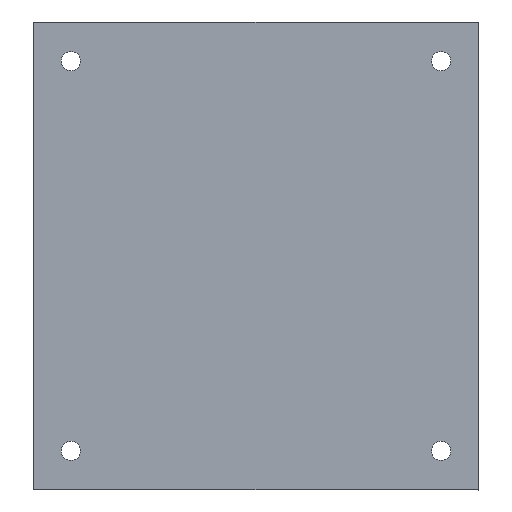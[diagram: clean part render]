
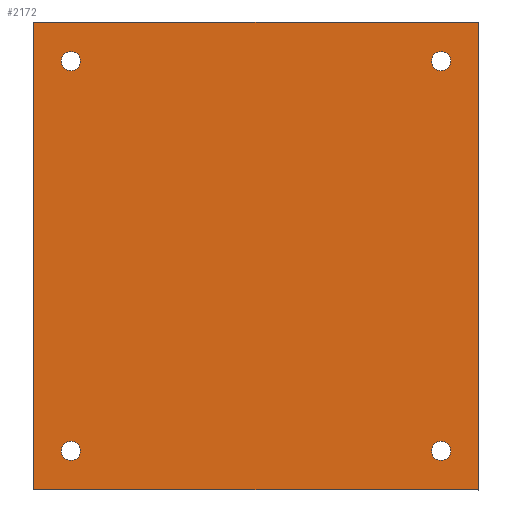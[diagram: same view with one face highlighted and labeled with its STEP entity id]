
A CAD part, front view. The second image highlights one B-rep face of the part: STEP entity #2172.
In plain terms, the highlighted planar face has unit normal (0, -1, 0).
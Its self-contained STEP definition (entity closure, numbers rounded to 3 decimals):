
#25 = ORIENTED_EDGE ( 'NONE', *, *, #2363, .T. ) ;
#47 = CARTESIAN_POINT ( 'NONE',  ( -24.13, -1.6, -24.15 ) ) ;
#97 = EDGE_CURVE ( 'NONE', #2329, #1384, #1520, .T. ) ;
#144 = VERTEX_POINT ( 'NONE', #1286 ) ;
#147 = ORIENTED_EDGE ( 'NONE', *, *, #931, .T. ) ;
#154 = ORIENTED_EDGE ( 'NONE', *, *, #855, .T. ) ;
#159 = CARTESIAN_POINT ( 'NONE',  ( -24.13, -1.6, 24.15 ) ) ;
#185 = DIRECTION ( 'NONE',  ( 0., 0., 1. ) ) ;
#187 = VERTEX_POINT ( 'NONE', #2006 ) ;
#192 = ORIENTED_EDGE ( 'NONE', *, *, #1035, .T. ) ;
#211 = CIRCLE ( 'NONE', #2472, 1.25 ) ;
#353 = PLANE ( 'NONE',  #1528 ) ;
#366 = EDGE_CURVE ( 'NONE', #144, #2309, #2489, .T. ) ;
#368 = DIRECTION ( 'NONE',  ( 0., 0., -1. ) ) ;
#369 = DIRECTION ( 'NONE',  ( 0., 1., 0. ) ) ;
#395 = LINE ( 'NONE', #2404, #2088 ) ;
#432 = ORIENTED_EDGE ( 'NONE', *, *, #967, .T. ) ;
#512 = ORIENTED_EDGE ( 'NONE', *, *, #366, .T. ) ;
#515 = CARTESIAN_POINT ( 'NONE',  ( 24.13, -1.6, 25.4 ) ) ;
#528 = CARTESIAN_POINT ( 'NONE',  ( 0., -1.6, 30.5 ) ) ;
#540 = AXIS2_PLACEMENT_3D ( 'NONE', #845, #2855, #653 ) ;
#567 = VERTEX_POINT ( 'NONE', #1526 ) ;
#570 = AXIS2_PLACEMENT_3D ( 'NONE', #2630, #1495, #185 ) ;
#604 = CARTESIAN_POINT ( 'NONE',  ( 28.95, -1.6, -30.5 ) ) ;
#620 = CARTESIAN_POINT ( 'NONE',  ( 0., -1.6, -30.5 ) ) ;
#653 = DIRECTION ( 'NONE',  ( 0., 0., 1. ) ) ;
#664 = FACE_OUTER_BOUND ( 'NONE', #1355, .T. ) ;
#666 = CIRCLE ( 'NONE', #1494, 1.25 ) ;
#694 = LINE ( 'NONE', #528, #2851 ) ;
#791 = CARTESIAN_POINT ( 'NONE',  ( 24.13, -1.6, -25.4 ) ) ;
#821 = VERTEX_POINT ( 'NONE', #2507 ) ;
#845 = CARTESIAN_POINT ( 'NONE',  ( 24.13, -1.6, 25.4 ) ) ;
#855 = EDGE_CURVE ( 'NONE', #2785, #187, #666, .T. ) ;
#885 = CARTESIAN_POINT ( 'NONE',  ( -24.13, -1.6, -25.4 ) ) ;
#931 = EDGE_CURVE ( 'NONE', #821, #2186, #694, .T. ) ;
#962 = DIRECTION ( 'NONE',  ( 0., 0., -1. ) ) ;
#967 = EDGE_CURVE ( 'NONE', #2825, #1274, #211, .T. ) ;
#970 = DIRECTION ( 'NONE',  ( 0., -1., 0. ) ) ;
#988 = EDGE_CURVE ( 'NONE', #187, #2785, #1647, .T. ) ;
#1010 = DIRECTION ( 'NONE',  ( 0., 1., 0. ) ) ;
#1035 = EDGE_CURVE ( 'NONE', #2186, #567, #1082, .T. ) ;
#1078 = FACE_BOUND ( 'NONE', #2763, .T. ) ;
#1082 = LINE ( 'NONE', #2762, #2083 ) ;
#1176 = DIRECTION ( 'NONE',  ( 0., 1., 0. ) ) ;
#1221 = DIRECTION ( 'NONE',  ( 1., 0., 0. ) ) ;
#1262 = DIRECTION ( 'NONE',  ( 0., 0., 1. ) ) ;
#1274 = VERTEX_POINT ( 'NONE', #2209 ) ;
#1286 = CARTESIAN_POINT ( 'NONE',  ( 24.13, -1.6, -26.65 ) ) ;
#1291 = FACE_BOUND ( 'NONE', #2864, .T. ) ;
#1300 = CARTESIAN_POINT ( 'NONE',  ( 24.13, -1.6, -24.15 ) ) ;
#1315 = EDGE_CURVE ( 'NONE', #1384, #2329, #2707, .T. ) ;
#1326 = CARTESIAN_POINT ( 'NONE',  ( -24.13, -1.6, 25.4 ) ) ;
#1355 = EDGE_LOOP ( 'NONE', ( #192, #1593, #1721, #147 ) ) ;
#1384 = VERTEX_POINT ( 'NONE', #159 ) ;
#1405 = FACE_BOUND ( 'NONE', #2796, .T. ) ;
#1447 = CARTESIAN_POINT ( 'NONE',  ( 24.13, -1.6, -25.4 ) ) ;
#1464 = AXIS2_PLACEMENT_3D ( 'NONE', #1326, #1546, #1776 ) ;
#1477 = DIRECTION ( 'NONE',  ( 0., 0., 1. ) ) ;
#1482 = CIRCLE ( 'NONE', #1887, 1.25 ) ;
#1493 = VERTEX_POINT ( 'NONE', #604 ) ;
#1494 = AXIS2_PLACEMENT_3D ( 'NONE', #885, #1984, #1568 ) ;
#1495 = DIRECTION ( 'NONE',  ( 0., 1., 0. ) ) ;
#1520 = CIRCLE ( 'NONE', #570, 1.25 ) ;
#1526 = CARTESIAN_POINT ( 'NONE',  ( -28.95, -1.6, -30.5 ) ) ;
#1528 = AXIS2_PLACEMENT_3D ( 'NONE', #2580, #970, #368 ) ;
#1546 = DIRECTION ( 'NONE',  ( 0., 1., 0. ) ) ;
#1568 = DIRECTION ( 'NONE',  ( 0., 0., 1. ) ) ;
#1593 = ORIENTED_EDGE ( 'NONE', *, *, #2289, .T. ) ;
#1632 = CARTESIAN_POINT ( 'NONE',  ( -28.95, -1.6, 30.5 ) ) ;
#1647 = CIRCLE ( 'NONE', #1750, 1.25 ) ;
#1721 = ORIENTED_EDGE ( 'NONE', *, *, #2233, .T. ) ;
#1750 = AXIS2_PLACEMENT_3D ( 'NONE', #2069, #1176, #2302 ) ;
#1776 = DIRECTION ( 'NONE',  ( 0., 0., 1. ) ) ;
#1782 = CARTESIAN_POINT ( 'NONE',  ( 24.13, -1.6, 26.65 ) ) ;
#1887 = AXIS2_PLACEMENT_3D ( 'NONE', #791, #1010, #1477 ) ;
#1901 = DIRECTION ( 'NONE',  ( 0., 0., 1. ) ) ;
#1976 = LINE ( 'NONE', #620, #2149 ) ;
#1984 = DIRECTION ( 'NONE',  ( 0., 1., 0. ) ) ;
#1989 = CARTESIAN_POINT ( 'NONE',  ( -24.13, -1.6, 26.65 ) ) ;
#2006 = CARTESIAN_POINT ( 'NONE',  ( -24.13, -1.6, -26.65 ) ) ;
#2032 = ORIENTED_EDGE ( 'NONE', *, *, #2259, .T. ) ;
#2033 = ORIENTED_EDGE ( 'NONE', *, *, #1315, .T. ) ;
#2063 = DIRECTION ( 'NONE',  ( 0., 1., 0. ) ) ;
#2069 = CARTESIAN_POINT ( 'NONE',  ( -24.13, -1.6, -25.4 ) ) ;
#2076 = DIRECTION ( 'NONE',  ( 0., 0., 1. ) ) ;
#2083 = VECTOR ( 'NONE', #962, 1000. ) ;
#2088 = VECTOR ( 'NONE', #1262, 1000. ) ;
#2149 = VECTOR ( 'NONE', #1221, 1000. ) ;
#2172 = ADVANCED_FACE ( 'NONE', ( #1078, #2515, #1291, #1405, #664 ), #353, .T. ) ;
#2186 = VERTEX_POINT ( 'NONE', #1632 ) ;
#2203 = ORIENTED_EDGE ( 'NONE', *, *, #988, .T. ) ;
#2209 = CARTESIAN_POINT ( 'NONE',  ( 24.13, -1.6, 24.15 ) ) ;
#2233 = EDGE_CURVE ( 'NONE', #1493, #821, #395, .T. ) ;
#2259 = EDGE_CURVE ( 'NONE', #2309, #144, #1482, .T. ) ;
#2287 = AXIS2_PLACEMENT_3D ( 'NONE', #1447, #369, #1901 ) ;
#2289 = EDGE_CURVE ( 'NONE', #567, #1493, #1976, .T. ) ;
#2302 = DIRECTION ( 'NONE',  ( 0., 0., 1. ) ) ;
#2309 = VERTEX_POINT ( 'NONE', #1300 ) ;
#2317 = DIRECTION ( 'NONE',  ( -1., 0., 0. ) ) ;
#2329 = VERTEX_POINT ( 'NONE', #1989 ) ;
#2355 = EDGE_LOOP ( 'NONE', ( #154, #2203 ) ) ;
#2363 = EDGE_CURVE ( 'NONE', #1274, #2825, #2483, .T. ) ;
#2404 = CARTESIAN_POINT ( 'NONE',  ( 28.95, -1.6, 0. ) ) ;
#2472 = AXIS2_PLACEMENT_3D ( 'NONE', #515, #2063, #2076 ) ;
#2483 = CIRCLE ( 'NONE', #540, 1.25 ) ;
#2489 = CIRCLE ( 'NONE', #2287, 1.25 ) ;
#2507 = CARTESIAN_POINT ( 'NONE',  ( 28.95, -1.6, 30.5 ) ) ;
#2515 = FACE_BOUND ( 'NONE', #2355, .T. ) ;
#2524 = ORIENTED_EDGE ( 'NONE', *, *, #97, .T. ) ;
#2580 = CARTESIAN_POINT ( 'NONE',  ( -28.95, -1.6, 30.5 ) ) ;
#2630 = CARTESIAN_POINT ( 'NONE',  ( -24.13, -1.6, 25.4 ) ) ;
#2707 = CIRCLE ( 'NONE', #1464, 1.25 ) ;
#2762 = CARTESIAN_POINT ( 'NONE',  ( -28.95, -1.6, 0. ) ) ;
#2763 = EDGE_LOOP ( 'NONE', ( #2032, #512 ) ) ;
#2785 = VERTEX_POINT ( 'NONE', #47 ) ;
#2796 = EDGE_LOOP ( 'NONE', ( #2524, #2033 ) ) ;
#2825 = VERTEX_POINT ( 'NONE', #1782 ) ;
#2851 = VECTOR ( 'NONE', #2317, 1000. ) ;
#2855 = DIRECTION ( 'NONE',  ( 0., 1., 0. ) ) ;
#2864 = EDGE_LOOP ( 'NONE', ( #432, #25 ) ) ;
